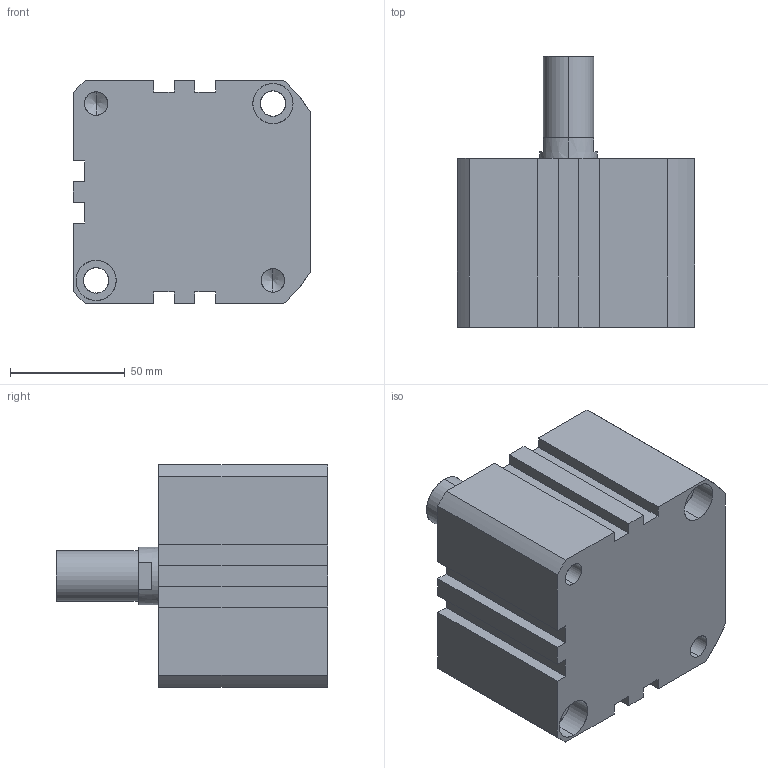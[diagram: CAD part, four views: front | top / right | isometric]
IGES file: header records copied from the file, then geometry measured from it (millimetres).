
Start section: SolidWorks IGES file using analytic representation for surfaces
Global section: file name: C:\Users\Toshiba\Desktop\XG#M2-80D-10.IGS; native system: SolidWorks 2014; preprocessor: SolidWorks 2014; author: Toshiba; date: 160524.102018; units: millimetre
Bounding box: 103.5 x 118 x 97 mm (x, y, z)
Surface area: 66649 mm2 (no closed solid volume)
Topology: 0 solids, 0 shells, 111 faces, 1893 edges, 1881 vertices
Faces by surface type: revolution 63, bspline 48
